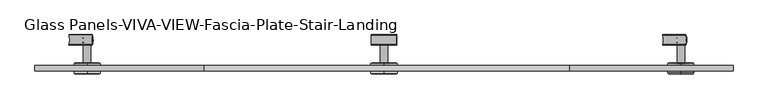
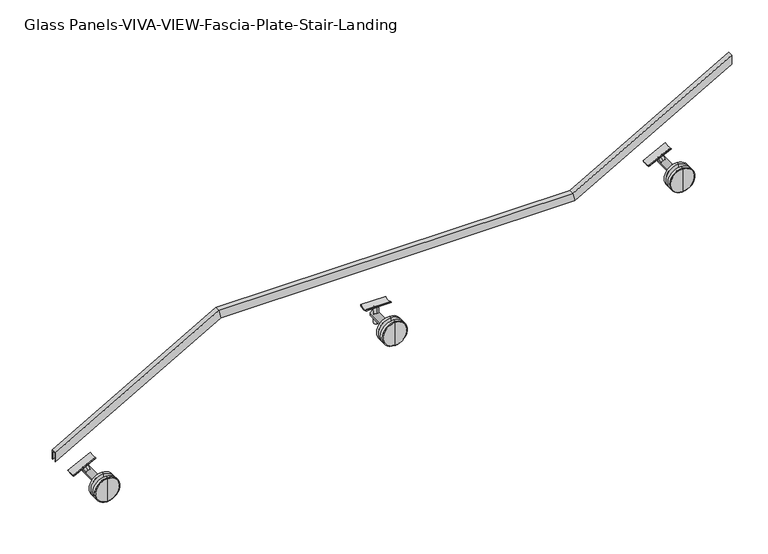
"""IFC4 building model written with IfcOpenShell, lengths in millimetres: railing geometry, Glass Panels-VIVA-VIEW-Fascia-Plate-Stair-Landing."""

import ifcopenshell
import ifcopenshell.guid

model = None  # the IFC model being written
_history = None  # IfcOwnerHistory: only IFC2X3 demands one
_inside = {}  # id of a spatial element -> (the spatial element, [elements in it])
_under = {}  # id of a project, library or spatial element -> (it, [spatial elements below it])
_declared = {}  # id of a project -> (the project, [libraries it declares])
_typed = {}  # id of a type object -> (the type object, [elements of that type])
_made_of = {}  # id of a material, layer set ... -> (it, [elements and type objects made of it])


def new_model(schema):
    """Start an empty IFC model of exactly this schema.

    Asked for "IFC4X3", IfcOpenShell would pick the latest addendum, in which some entities
    have other attributes; the version numbers below select the first issue.
    IFC2X3 requires an IfcOwnerHistory on every rooted entity: one is made here for all.
    """
    global model, _history
    if schema == "IFC4X3":
        model = ifcopenshell.file(schema_version=(4, 3, 0, 0))
    else:
        model = ifcopenshell.file(schema=schema)
    _inside.clear()
    _under.clear()
    _declared.clear()
    _typed.clear()
    _made_of.clear()
    _history = None
    if model.schema == "IFC2X3":
        org = make("IfcOrganization", Name="unknown")
        user = make(
            "IfcPersonAndOrganization",
            ThePerson=make("IfcPerson", FamilyName="unknown"),
            TheOrganization=org,
        )
        app = make(
            "IfcApplication",
            ApplicationDeveloper=org,
            Version="unknown",
            ApplicationFullName="unknown",
            ApplicationIdentifier="unknown",
        )
        _history = make(
            "IfcOwnerHistory",
            OwningUser=user,
            OwningApplication=app,
            ChangeAction="ADDED",
            CreationDate=0,
        )
    return model


def make(cls, **values):
    """One entity of the class cls with the attributes given. An attribute that is None is left unset."""
    return model.create_entity(
        cls, **{name: value for name, value in values.items() if value is not None}
    )


def rooted(cls, **values):
    """An entity with a GlobalId (a new one), such as an element, a storey or a relation."""
    return make(cls, GlobalId=ifcopenshell.guid.new(), OwnerHistory=_history, **values)


def si_unit(unit_type, name, prefix=None):
    """IfcSIUnit, for example si_unit("LENGTHUNIT", "METRE", prefix="MILLI")."""
    return make("IfcSIUnit", UnitType=unit_type, Prefix=prefix, Name=name)


def assignment(units):
    """IfcUnitAssignment: the units of a project."""
    return None if units is None else make("IfcUnitAssignment", Units=units)


def point(xyz):
    """IfcCartesianPoint."""
    return None if xyz is None else make("IfcCartesianPoint", Coordinates=xyz)


def direction(xyz):
    """IfcDirection."""
    return None if xyz is None else make("IfcDirection", DirectionRatios=xyz)


def frame(location, z_axis=None, x_axis=None):
    """IfcAxis2Placement3D, a coordinate frame: its origin and axes. An axis left out is left unset."""
    return make(
        "IfcAxis2Placement3D",
        Location=point(location),
        Axis=direction(z_axis),
        RefDirection=direction(x_axis),
    )


def frame_2d(location, x_axis=None):
    """IfcAxis2Placement2D, a coordinate frame in the plane: its origin and x axis."""
    return make(
        "IfcAxis2Placement2D", Location=point(location), RefDirection=direction(x_axis)
    )


def origin():
    """The frame at (0, 0, 0) with its axes left unset."""
    return frame((0.0, 0.0, 0.0))


def place(relative_to, where):
    """IfcLocalPlacement: puts the frame where relative to a parent placement (None: the world)."""
    return make(
        "IfcLocalPlacement", PlacementRelTo=relative_to, RelativePlacement=where
    )


def context(
    kind, dimensions, precision=None, world=None, true_north=None, identifier=None
):
    """IfcGeometricRepresentationContext, for example the 3D "Model" context."""
    return make(
        "IfcGeometricRepresentationContext",
        ContextIdentifier=identifier,
        ContextType=kind,
        CoordinateSpaceDimension=dimensions,
        Precision=precision,
        WorldCoordinateSystem=world,
        TrueNorth=true_north,
    )


def project(units=None, contexts=None):
    """IfcProject with its units and contexts."""
    return rooted(
        "IfcProject",
        Name="project",
        RepresentationContexts=contexts,
        UnitsInContext=assignment(units),
    )


def spatial(cls, under=None, at=None, **own):
    """A site, building, storey or space (cls), placed at a placement, below another one or the project."""
    s = rooted(cls, ObjectPlacement=at, **own)
    if under is not None:
        _under.setdefault(under.id(), (under, []))[1].append(s)
    return s


def polyline(points):
    """IfcPolyline through the points."""
    return make("IfcPolyline", Points=[point(p) for p in points])


def circle_curve(where, radius):
    """IfcCircle in the frame where."""
    return make("IfcCircle", Position=where, Radius=radius)


def trimmed(basis, trim1, trim2, sense, master):
    """IfcTrimmedCurve: the piece of a basis curve between two trims."""
    return make(
        "IfcTrimmedCurve",
        BasisCurve=basis,
        Trim1=trim1,
        Trim2=trim2,
        SenseAgreement=sense,
        MasterRepresentation=master,
    )


def segment(curve, same_sense, transition):
    """IfcCompositeCurveSegment."""
    return make(
        "IfcCompositeCurveSegment",
        Transition=transition,
        SameSense=same_sense,
        ParentCurve=curve,
    )


def composite_curve(segments, self_intersect=None):
    """IfcCompositeCurve: segments joined end to end."""
    return make("IfcCompositeCurve", Segments=segments, SelfIntersect=self_intersect)


def outline(outer, holes=None, kind="AREA"):
    """IfcArbitraryClosedProfileDef: a profile drawn as a closed curve; with holes, ...WithVoids."""
    if holes is None:
        return make("IfcArbitraryClosedProfileDef", ProfileType=kind, OuterCurve=outer)
    return make(
        "IfcArbitraryProfileDefWithVoids",
        ProfileType=kind,
        OuterCurve=outer,
        InnerCurves=holes,
    )


def extrude(swept, where, along, depth):
    """IfcExtrudedAreaSolid: the profile swept, set in the frame where, extruded along a direction by depth."""
    return make(
        "IfcExtrudedAreaSolid",
        SweptArea=swept,
        Position=where,
        ExtrudedDirection=direction(along),
        Depth=depth,
    )


def faces_of(points, faces, orient=None, outer=None):
    """IfcFace entities. A face is a list of loops; a loop is a list of indices into points, from 0.

    orient and outer hold one flag for each loop. By default every Orientation is true, the
    first loop of a face is its IfcFaceOuterBound and the others are IfcFaceBound.
    """
    made = []
    for i, loops in enumerate(faces):
        bounds = []
        for j, loop in enumerate(loops):
            is_outer = j == 0 if outer is None else outer[i][j]
            bounds.append(
                make(
                    "IfcFaceOuterBound" if is_outer else "IfcFaceBound",
                    Bound=make("IfcPolyLoop", Polygon=[points[k] for k in loop]),
                    Orientation=True if orient is None else orient[i][j],
                )
            )
        made.append(make("IfcFace", Bounds=bounds))
    return made


def faceted_brep(points, faces, orient=None, outer=None, voids=None):
    """IfcFacetedBrep: a solid bounded by flat faces; with voids (closed shells), ...WithVoids."""
    shared = [point(p) for p in points]
    hull = make("IfcClosedShell", CfsFaces=faces_of(shared, faces, orient, outer))
    if voids is None:
        return make("IfcFacetedBrep", Outer=hull)
    return make(
        "IfcFacetedBrepWithVoids",
        Outer=hull,
        Voids=[
            make(cls, CfsFaces=faces_of(shared, fs, o, b)) for cls, fs, o, b in voids
        ],
    )


def shape(context_of_items, identifier, shape_type, items):
    """IfcShapeRepresentation: the items that make up one representation, for example the "Body"."""
    return make(
        "IfcShapeRepresentation",
        ContextOfItems=context_of_items,
        RepresentationIdentifier=identifier,
        RepresentationType=shape_type,
        Items=items,
    )


def source(mapping_origin, context_of_items, identifier, shape_type, items):
    """IfcRepresentationMap: a shape defined once, which mapped items show again and again."""
    return make(
        "IfcRepresentationMap",
        MappingOrigin=mapping_origin,
        MappedRepresentation=shape(context_of_items, identifier, shape_type, items),
    )


def transform(
    local_origin,
    x_axis=None,
    y_axis=None,
    z_axis=None,
    scale=None,
    scale2=None,
    scale3=None,
    uniform=True,
):
    """IfcCartesianTransformationOperator3D, or its non-uniform kind. x_axis, y_axis, z_axis: its Axis1, 2, 3."""
    if uniform:
        return make(
            "IfcCartesianTransformationOperator3D",
            Axis1=direction(x_axis),
            Axis2=direction(y_axis),
            LocalOrigin=point(local_origin),
            Scale=scale,
            Axis3=direction(z_axis),
        )
    return make(
        "IfcCartesianTransformationOperator3DnonUniform",
        Axis1=direction(x_axis),
        Axis2=direction(y_axis),
        LocalOrigin=point(local_origin),
        Scale=scale,
        Axis3=direction(z_axis),
        Scale2=scale2,
        Scale3=scale3,
    )


def mapped(mapping_source, mapping_target):
    """IfcMappedItem: shows the shape of a source again, moved by a transform."""
    return make(
        "IfcMappedItem", MappingSource=mapping_source, MappingTarget=mapping_target
    )


def made_of(thing, what):
    """Note that an element or type object is made of a material, layer set ...; save() writes the relation."""
    if what is not None:
        _made_of.setdefault(what.id(), (what, []))[1].append(thing)
    return thing


def element(
    cls,
    number,
    at=None,
    inside=None,
    cuts=None,
    type_object=None,
    material=None,
    context=None,
    identifier="Body",
    shape_type=None,
    held_by="IfcProductDefinitionShape",
    body=None,
    shapes=None,
    **own,
):
    """One element of the class cls, such as IfcWall. Its Tag is "e" and its number.

    at: its placement. inside: the storey or other place that contains it. cuts: it is an
    opening in that element (IfcRelVoidsElement). A single representation is given by context,
    identifier, shape_type and body (its items); several are given by shapes. held_by: the class
    of the entity that holds the representations. save() writes the other relations.
    """
    e = rooted(cls, Tag="e%d" % number, ObjectPlacement=at, **own)
    if body is not None:
        shapes = [shape(context, identifier, shape_type, body)]
    if shapes is not None:
        e.Representation = make(held_by, Representations=shapes)
    if inside is not None:
        _inside.setdefault(inside.id(), (inside, []))[1].append(e)
    if cuts is not None:
        rooted(
            "IfcRelVoidsElement", RelatingBuildingElement=cuts, RelatedOpeningElement=e
        )
    if type_object is not None:
        _typed.setdefault(type_object.id(), (type_object, []))[1].append(e)
    return made_of(e, material)


def aggregate(whole, parts):
    """IfcRelAggregates: a whole, such as a stair, and the parts it consists of."""
    return rooted("IfcRelAggregates", RelatingObject=whole, RelatedObjects=parts)


def save(model, path):
    """Write the relations noted so far, then the file.

    IfcRelAggregates (storeys below a building ...), IfcRelContainedInSpatialStructure (elements
    in a storey), IfcRelDefinesByType, IfcRelAssociatesMaterial and IfcRelDeclares: one each for
    every whole, place, type object, material and project.
    """
    for whole, parts in _under.values():
        aggregate(whole, parts)
    for where, things in _inside.values():
        rooted(
            "IfcRelContainedInSpatialStructure",
            RelatedElements=things,
            RelatingStructure=where,
        )
    for kind, things in _typed.values():
        rooted("IfcRelDefinesByType", RelatedObjects=things, RelatingType=kind)
    for what, things in _made_of.values():
        rooted("IfcRelAssociatesMaterial", RelatedObjects=things, RelatingMaterial=what)
    for by, libraries in _declared.values():
        rooted("IfcRelDeclares", RelatingContext=by, RelatedDefinitions=libraries)
    model.write(path)


def plane_surface(at):
    """IfcPlane: the flat surface through the origin of the frame at, square to its z axis."""
    return make("IfcPlane", Position=at)


def cylinder_surface(at, radius):
    """IfcCylindricalSurface: all points at the distance radius from the z axis of the frame at."""
    return make("IfcCylindricalSurface", Position=at, Radius=radius)


def revolved_surface(curve, axis_point, axis_direction):
    """IfcSurfaceOfRevolution: the curve turned about the line through axis_point along axis_direction."""
    return make(
        "IfcSurfaceOfRevolution",
        SweptCurve=make("IfcArbitraryOpenProfileDef", ProfileType="CURVE", Curve=curve),
        AxisPosition=make("IfcAxis1Placement", Location=point(axis_point), Axis=direction(axis_direction)),
    )


def advanced_brep(points, edges, surfaces, faces):
    """IfcAdvancedBrep: a solid bounded by faces that lie on surfaces and meet in shared edges.

    An edge is (start, end): straight between two places in points (the first is 0);
    or (start, end, curve); or (start, end, curve, False) where it runs against its curve.
    A face is (place in surfaces, loops), or (place, loops, False) where it looks against
    its surface's normal. A loop lists edges by number (the first is 1), with a minus sign
    where the edge is run from its end to its start. The first loop is the outer one.
    """
    corners = [point(p) for p in points]
    vertices = [make("IfcVertexPoint", VertexGeometry=c) for c in corners]
    made = []
    for start, end, *more in edges:
        made.append(
            make(
                "IfcEdgeCurve",
                EdgeStart=vertices[start],
                EdgeEnd=vertices[end],
                EdgeGeometry=more[0] if more else make("IfcPolyline", Points=[corners[start], corners[end]]),
                SameSense=more[1] if len(more) > 1 else True,
            )
        )
    hull = []
    for where, loops, *sense in faces:
        bounds = []
        for j, loop in enumerate(loops):
            ring = [make("IfcOrientedEdge", EdgeElement=made[abs(k) - 1], Orientation=k > 0) for k in loop]
            bounds.append(
                make(
                    "IfcFaceOuterBound" if j == 0 else "IfcFaceBound",
                    Bound=make("IfcEdgeLoop", EdgeList=ring),
                    Orientation=True,
                )
            )
        hull.append(make("IfcAdvancedFace", Bounds=bounds, FaceSurface=surfaces[where], SameSense=sense[0] if sense else True))
    return make("IfcAdvancedBrep", Outer=make("IfcClosedShell", CfsFaces=hull))


def glass_panels_viva_view_fascia_plate_stair_landing_6f1cc94a(model_context):
    return source(origin(), model_context, "Body", "SolidModel", [
        faceted_brep([(34673.4016433, -11437.3344585, 2988.1285714), (34673.4016433, -11437.3344585, 2958.8740933), (34673.4016433, -11438.9219585, 2958.8740933), (34673.4016433, -11438.9219585, 2986.3001665), (34673.4016433, -11451.6219585, 2986.3001665), (34673.4016433, -11451.6219585, 2958.8740933), (34673.4016433, -11453.2094585, 2958.8740933), (34673.4016433, -11453.2094585, 2988.1285714), (35165.5266433, -11437.3344585, 3269.3428571), (35172.27198, -11437.3344585, 3243.9428571), (35172.27198, -11438.9219585, 3243.9428571), (35165.9482268, -11438.9219585, 3267.7553571), (35165.9482268, -11451.6219585, 3267.7553571), (35172.27198, -11451.6219585, 3243.9428571), (35172.27198, -11453.2094585, 3243.9428571), (35165.5266433, -11453.2094585, 3269.3428571), (36232.3266433, -11437.3344585, 3269.3428571), (36239.07198, -11437.3344585, 3243.9428571), (36239.07198, -11438.9219585, 3243.9428571), (36232.7482268, -11438.9219585, 3267.7553571), (36232.7482268, -11451.6219585, 3267.7553571), (36239.07198, -11451.6219585, 3243.9428571), (36239.07198, -11453.2094585, 3243.9428571), (36232.3266433, -11453.2094585, 3269.3428571), (36710.9578933, -11437.3344585, 3542.8464286), (36710.9578933, -11453.2094585, 3542.8464286), (36710.9578933, -11453.2094585, 3513.5919505), (36710.9578933, -11451.6219585, 3513.5919505), (36710.9578933, -11451.6219585, 3541.0180237), (36710.9578933, -11438.9219585, 3541.0180237), (36710.9578933, -11438.9219585, 3513.5919505), (36710.9578933, -11437.3344585, 3513.5919505)], [[[0, 1, 2, 3, 4, 5, 6, 7]], [[1, 0, 8, 9]], [[2, 1, 9, 10]], [[3, 2, 10, 11]], [[4, 3, 11, 12]], [[5, 4, 12, 13]], [[6, 5, 13, 14]], [[7, 6, 14, 15]], [[0, 7, 15, 8]], [[9, 8, 16, 17]], [[10, 9, 17, 18]], [[11, 10, 18, 19]], [[12, 11, 19, 20]], [[13, 12, 20, 21]], [[14, 13, 21, 22]], [[15, 14, 22, 23]], [[8, 15, 23, 16]], [[24, 25, 26, 27, 28, 29, 30, 31]], [[17, 16, 24, 31]], [[18, 17, 31, 30]], [[19, 18, 30, 29]], [[20, 19, 29, 28]], [[21, 20, 28, 27]], [[22, 21, 27, 26]], [[23, 22, 26, 25]], [[16, 23, 25, 24]]]),
        extrude(outline(composite_curve([segment(trimmed(circle_curve(frame_2d((35692.1797683, -11363.0520975)), 7.0), [point((35692.1797683, -11356.0520975))], [point((35692.1797683, -11370.0520975))], False, "CARTESIAN"), True, "CONTINUOUS"), segment(trimmed(circle_curve(frame_2d((35692.1797683, -11363.0520975)), 7.0), [point((35692.1797683, -11370.0520975))], [point((35692.1797683, -11356.0520975))], False, "CARTESIAN"), True, "CONTINUOUS")], self_intersect=False)), frame((0.0, 0.0, 2992.4664418), z_axis=(0.0, 0.0, 1.0), x_axis=(1.0, 0.0, 0.0)), (0.0, 0.0, 1.0), 52.8378352),
        extrude(outline(composite_curve([segment(trimmed(circle_curve(frame_2d((18.6575251, 0.3952033)), 19.05), [point((5.2466064, 13.9247916))], [point((5.2466064, -13.1343849))], True, "CARTESIAN"), True, "CONTINUOUS"), segment(polyline([(5.2466064, -13.1343849), (4.2292193, -14.1607745)]), True, "CONTINUOUS"), segment(trimmed(circle_curve(frame_2d((3.1638974, -13.1047967)), 1.5), [point((4.2292193, -14.1607745))], [point((2.0329757, -14.0901981))], False, "CARTESIAN"), True, "CONTINUOUS"), segment(trimmed(circle_curve(frame_2d((18.6575251, 0.3952033)), 22.05), [point((2.0329757, -14.0901981))], [point((2.0329757, 14.8806048))], False, "CARTESIAN"), True, "CONTINUOUS"), segment(trimmed(circle_curve(frame_2d((3.1638974, 13.8952033)), 1.5), [point((2.0329757, 14.8806048))], [point((4.2292193, 14.9511812))], False, "CARTESIAN"), True, "CONTINUOUS"), segment(polyline([(4.2292193, 14.9511812), (5.2466064, 13.9247916)]), True, "CONTINUOUS")], self_intersect=False)), frame((35654.9926572, -11361.3248652, 3048.6249714), z_axis=(0.9999988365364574, 0.0, 0.0015254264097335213), x_axis=(-0.0015254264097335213, 0.0, 0.9999988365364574)), (0.0, 0.0, 1.0), 74.5229187),
        extrude(outline(composite_curve([segment(trimmed(circle_curve(frame_2d((3015.3428571, 35692.1797683)), 11.0132813), [point((3015.3428571, 35703.1930495))], [point((3015.3428571, 35681.166487))], False, "CARTESIAN"), True, "CONTINUOUS"), segment(trimmed(circle_curve(frame_2d((3015.3428571, 35692.1797683)), 11.0132813), [point((3015.3428571, 35681.166487))], [point((3015.3428571, 35703.1930495))], False, "CARTESIAN"), True, "CONTINUOUS")], self_intersect=False)), frame((0.0, -11429.2977397, 0.0), z_axis=(0.0, 1.0, 0.0), x_axis=(0.0, 0.0, 1.0)), (0.0, 0.0, 1.0), 79.2757812),
        advanced_brep(
        [(35692.1797683, -11461.2461772, 3015.3428571), (35692.1797683, -11461.2461772, 3051.4584821), (35692.1797683, -11461.2461772, 2979.2272321), (35692.1797683, -11429.2977397, 2979.2272321), (35692.1797683, -11429.2977397, 3051.4584821), (35692.1797683, -11429.2977397, 3015.3428571), (35692.1797683, -11431.2821147, 2977.2428571), (35692.1797683, -11431.2821147, 3053.4428571), (35692.1797683, -11438.9219585, 2977.2428571), (35692.1797683, -11438.9219585, 3053.4428571), (35692.1797683, -11438.9219585, 3002.6428571), (35692.1797683, -11438.9219585, 3028.0428571), (35692.1797683, -11451.6219585, 3002.6428571), (35692.1797683, -11451.6219585, 3028.0428571), (35692.1797683, -11451.6219585, 2977.2428571), (35692.1797683, -11451.6219585, 3053.4428571), (35692.1797683, -11459.2618022, 2977.2428571), (35692.1797683, -11459.2618022, 3053.4428571)],
        [
            (0, 1),
            (1, 2, circle_curve(frame((35692.1797683, -11461.2461772, 3015.3428571), z_axis=(0.0, -1.0, 0.0), x_axis=(0.0, 0.0, 1.0)), 36.115625)),
            (2, 0),
            (2, 1, circle_curve(frame((35692.1797683, -11461.2461772, 3015.3428571), z_axis=(0.0, -1.0, 0.0), x_axis=(0.0, 0.0, 1.0)), 36.115625)),
            (3, 4, circle_curve(frame((35692.1797683, -11429.2977397, 3015.3428571), z_axis=(0.0, 1.0, 0.0), x_axis=(0.0, 0.0, 1.0)), 36.115625)),
            (4, 5),
            (5, 3),
            (4, 3, circle_curve(frame((35692.1797683, -11429.2977397, 3015.3428571), z_axis=(0.0, 1.0, 0.0), x_axis=(0.0, 0.0, 1.0)), 36.115625)),
            (6, 7, circle_curve(frame((35692.1797683, -11431.2821147, 3015.3428571), z_axis=(0.0, 1.0, 0.0), x_axis=(0.0, 0.0, 1.0)), 38.1)),
            (7, 4),
            (3, 6),
            (7, 6, circle_curve(frame((35692.1797683, -11431.2821147, 3015.3428571), z_axis=(0.0, 1.0, 0.0), x_axis=(0.0, 0.0, 1.0)), 38.1)),
            (8, 9, circle_curve(frame((35692.1797683, -11438.9219585, 3015.3428571), z_axis=(0.0, 1.0, 0.0), x_axis=(0.0, 0.0, 1.0)), 38.1)),
            (9, 7),
            (6, 8),
            (9, 8, circle_curve(frame((35692.1797683, -11438.9219585, 3015.3428571), z_axis=(0.0, 1.0, 0.0), x_axis=(0.0, 0.0, 1.0)), 38.1)),
            (10, 11, circle_curve(frame((35692.1797683, -11438.9219585, 3015.3428571), z_axis=(0.0, 1.0, 0.0), x_axis=(0.0, 0.0, 1.0)), 12.7)),
            (11, 9),
            (8, 10),
            (11, 10, circle_curve(frame((35692.1797683, -11438.9219585, 3015.3428571), z_axis=(0.0, 1.0, 0.0), x_axis=(0.0, 0.0, 1.0)), 12.7)),
            (12, 13, circle_curve(frame((35692.1797683, -11451.6219585, 3015.3428571), z_axis=(0.0, 1.0, 0.0), x_axis=(0.0, 0.0, 1.0)), 12.7)),
            (13, 11),
            (10, 12),
            (13, 12, circle_curve(frame((35692.1797683, -11451.6219585, 3015.3428571), z_axis=(0.0, 1.0, 0.0), x_axis=(0.0, 0.0, 1.0)), 12.7)),
            (14, 15, circle_curve(frame((35692.1797683, -11451.6219585, 3015.3428571), z_axis=(0.0, 1.0, 0.0), x_axis=(0.0, 0.0, 1.0)), 38.1)),
            (15, 13),
            (12, 14),
            (15, 14, circle_curve(frame((35692.1797683, -11451.6219585, 3015.3428571), z_axis=(0.0, 1.0, 0.0), x_axis=(0.0, 0.0, 1.0)), 38.1)),
            (16, 17, circle_curve(frame((35692.1797683, -11459.2618022, 3015.3428571), z_axis=(0.0, 1.0, 0.0), x_axis=(0.0, 0.0, 1.0)), 38.1)),
            (17, 15),
            (14, 16),
            (17, 16, circle_curve(frame((35692.1797683, -11459.2618022, 3015.3428571), z_axis=(0.0, 1.0, 0.0), x_axis=(0.0, 0.0, 1.0)), 38.1)),
            (1, 17),
            (16, 2),
        ],
        [
            plane_surface(frame((35692.1797683, -11461.2461772, 3015.3428571), z_axis=(0.0, -1.0, 0.0), x_axis=(0.0, 0.0, 1.0))),
            plane_surface(frame((35692.1797683, -11429.2977397, 3015.3428571), z_axis=(0.0, 1.0, 0.0), x_axis=(0.0, 0.0, 1.0))),
            revolved_surface(polyline([(35692.1797683, -11429.2977397, 3051.4584821), (35692.1797683, -11431.2821147, 3053.4428571)]), (35692.1797683, -11497.3618022, 3015.3428571), (0.0, -1.0, 0.0)),
            cylinder_surface(frame((35692.1797683, -11497.3618022, 3015.3428571), z_axis=(0.0, -1.0, 0.0), x_axis=(0.0, 0.0, 1.0)), 38.1),
            plane_surface(frame((35692.1797683, -11438.9219585, 3015.3428571), z_axis=(0.0, -1.0, 0.0), x_axis=(0.0, 0.0, 1.0))),
            cylinder_surface(frame((35692.1797683, -11497.3618022, 3015.3428571), z_axis=(0.0, -1.0, 0.0), x_axis=(0.0, 0.0, 1.0)), 12.7),
            plane_surface(frame((35692.1797683, -11451.6219585, 3015.3428571), z_axis=(0.0, 1.0, 0.0), x_axis=(0.0, 0.0, 1.0))),
            revolved_surface(polyline([(35692.1797683, -11459.2618022, 3053.4428571), (35692.1797683, -11461.2461772, 3051.4584821)]), (35692.1797683, -11497.3618022, 3015.3428571), (0.0, -1.0, 0.0)),
        ],
        [
            (0, [[1, 2, 3]]),
            (0, [[-3, 4, -1]]),
            (1, [[5, 6, 7]]),
            (1, [[8, -7, -6]]),
            (2, [[9, 10, -5, 11]]),
            (2, [[12, -11, -8, -10]]),
            (3, [[13, 14, -9, 15]]),
            (3, [[16, -15, -12, -14]]),
            (4, [[17, 18, -13, 19]]),
            (4, [[20, -19, -16, -18]]),
            (5, [[21, 22, -17, 23]]),
            (5, [[24, -23, -20, -22]]),
            (6, [[25, 26, -21, 27]]),
            (6, [[28, -27, -24, -26]]),
            (3, [[29, 30, -25, 31]]),
            (3, [[32, -31, -28, -30]]),
            (7, [[-2, 33, -29, 34]]),
            (7, [[-4, -34, -32, -33]]),
        ],
    ),
        extrude(outline(composite_curve([segment(trimmed(circle_curve(frame_2d((0.0, -7.0)), 7.0), [point((0.0, -14.0))], [point((0.0, 0.0))], False, "CARTESIAN"), True, "CONTINUOUS"), segment(trimmed(circle_curve(frame_2d((0.0, -7.0)), 7.0), [point((0.0, 0.0))], [point((0.0, -14.0))], False, "CARTESIAN"), True, "CONTINUOUS")], self_intersect=False)), frame((36569.978817, -11370.0520975, 3178.8842989), z_axis=(-0.4481147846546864, 0.0, 0.8939760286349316), x_axis=(-0.8939760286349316, 0.0, -0.4481147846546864)), (0.0, 0.0, 1.0), 52.8378352),
        extrude(outline(composite_curve([segment(trimmed(circle_curve(frame_2d((18.6575251, 0.3952033)), 19.05), [point((5.2466063, 13.9247916))], [point((5.2466063, -13.1343849))], True, "CARTESIAN"), True, "CONTINUOUS"), segment(polyline([(5.2466063, -13.1343849), (4.2292193, -14.1607745)]), True, "CONTINUOUS"), segment(trimmed(circle_curve(frame_2d((3.1638975, -13.1047967)), 1.5), [point((4.2292193, -14.1607745))], [point((2.0329757, -14.0901981))], False, "CARTESIAN"), True, "CONTINUOUS"), segment(trimmed(circle_curve(frame_2d((18.6575251, 0.3952033)), 22.05), [point((2.0329757, -14.0901981))], [point((2.0329757, 14.8806048))], False, "CARTESIAN"), True, "CONTINUOUS"), segment(trimmed(circle_curve(frame_2d((3.1638975, 13.8952033)), 1.5), [point((2.0329757, 14.8806048))], [point((4.2292193, 14.9511812))], False, "CARTESIAN"), True, "CONTINUOUS"), segment(polyline([(4.2292193, 14.9511812), (5.2466063, 13.9247916)]), True, "CONTINUOUS")], self_intersect=False)), frame((36507.324839, -11361.3248652, 3210.5094028), z_axis=(0.8953503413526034, 0.0, 0.44536251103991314), x_axis=(-0.44536251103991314, 0.0, 0.8953503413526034)), (0.0, 0.0, 1.0), 74.5229187),
        extrude(outline(composite_curve([segment(trimmed(circle_curve(frame_2d((3201.7607143, 36558.5578933)), 11.0132813), [point((3201.7607143, 36569.5711745))], [point((3201.7607143, 36547.544612))], False, "CARTESIAN"), True, "CONTINUOUS"), segment(trimmed(circle_curve(frame_2d((3201.7607143, 36558.5578933)), 11.0132813), [point((3201.7607143, 36547.544612))], [point((3201.7607143, 36569.5711745))], False, "CARTESIAN"), True, "CONTINUOUS")], self_intersect=False)), frame((0.0, -11429.2977397, 0.0), z_axis=(0.0, 1.0, 0.0), x_axis=(0.0, 0.0, 1.0)), (0.0, 0.0, 1.0), 79.2757812),
        advanced_brep(
        [(36558.5578933, -11461.2461772, 3201.7607143), (36558.5578933, -11461.2461772, 3237.8763393), (36558.5578933, -11461.2461772, 3165.6450893), (36558.5578933, -11429.2977397, 3165.6450893), (36558.5578933, -11429.2977397, 3237.8763393), (36558.5578933, -11429.2977397, 3201.7607143), (36558.5578933, -11431.2821147, 3163.6607143), (36558.5578933, -11431.2821147, 3239.8607143), (36558.5578933, -11438.9219585, 3163.6607143), (36558.5578933, -11438.9219585, 3239.8607143), (36558.5578933, -11438.9219585, 3189.0607143), (36558.5578933, -11438.9219585, 3214.4607143), (36558.5578933, -11451.6219585, 3189.0607143), (36558.5578933, -11451.6219585, 3214.4607143), (36558.5578933, -11451.6219585, 3163.6607143), (36558.5578933, -11451.6219585, 3239.8607143), (36558.5578933, -11459.2618022, 3163.6607143), (36558.5578933, -11459.2618022, 3239.8607143)],
        [
            (0, 1),
            (1, 2, circle_curve(frame((36558.5578933, -11461.2461772, 3201.7607143), z_axis=(0.0, -1.0, 0.0), x_axis=(0.0, 0.0, 1.0)), 36.115625)),
            (2, 0),
            (2, 1, circle_curve(frame((36558.5578933, -11461.2461772, 3201.7607143), z_axis=(0.0, -1.0, 0.0), x_axis=(0.0, 0.0, 1.0)), 36.115625)),
            (3, 4, circle_curve(frame((36558.5578933, -11429.2977397, 3201.7607143), z_axis=(0.0, 1.0, 0.0), x_axis=(0.0, 0.0, 1.0)), 36.115625)),
            (4, 5),
            (5, 3),
            (4, 3, circle_curve(frame((36558.5578933, -11429.2977397, 3201.7607143), z_axis=(0.0, 1.0, 0.0), x_axis=(0.0, 0.0, 1.0)), 36.115625)),
            (6, 7, circle_curve(frame((36558.5578933, -11431.2821147, 3201.7607143), z_axis=(0.0, 1.0, 0.0), x_axis=(0.0, 0.0, 1.0)), 38.1)),
            (7, 4),
            (3, 6),
            (7, 6, circle_curve(frame((36558.5578933, -11431.2821147, 3201.7607143), z_axis=(0.0, 1.0, 0.0), x_axis=(0.0, 0.0, 1.0)), 38.1)),
            (8, 9, circle_curve(frame((36558.5578933, -11438.9219585, 3201.7607143), z_axis=(0.0, 1.0, 0.0), x_axis=(0.0, 0.0, 1.0)), 38.1)),
            (9, 7),
            (6, 8),
            (9, 8, circle_curve(frame((36558.5578933, -11438.9219585, 3201.7607143), z_axis=(0.0, 1.0, 0.0), x_axis=(0.0, 0.0, 1.0)), 38.1)),
            (10, 11, circle_curve(frame((36558.5578933, -11438.9219585, 3201.7607143), z_axis=(0.0, 1.0, 0.0), x_axis=(0.0, 0.0, 1.0)), 12.7)),
            (11, 9),
            (8, 10),
            (11, 10, circle_curve(frame((36558.5578933, -11438.9219585, 3201.7607143), z_axis=(0.0, 1.0, 0.0), x_axis=(0.0, 0.0, 1.0)), 12.7)),
            (12, 13, circle_curve(frame((36558.5578933, -11451.6219585, 3201.7607143), z_axis=(0.0, 1.0, 0.0), x_axis=(0.0, 0.0, 1.0)), 12.7)),
            (13, 11),
            (10, 12),
            (13, 12, circle_curve(frame((36558.5578933, -11451.6219585, 3201.7607143), z_axis=(0.0, 1.0, 0.0), x_axis=(0.0, 0.0, 1.0)), 12.7)),
            (14, 15, circle_curve(frame((36558.5578933, -11451.6219585, 3201.7607143), z_axis=(0.0, 1.0, 0.0), x_axis=(0.0, 0.0, 1.0)), 38.1)),
            (15, 13),
            (12, 14),
            (15, 14, circle_curve(frame((36558.5578933, -11451.6219585, 3201.7607143), z_axis=(0.0, 1.0, 0.0), x_axis=(0.0, 0.0, 1.0)), 38.1)),
            (16, 17, circle_curve(frame((36558.5578933, -11459.2618022, 3201.7607143), z_axis=(0.0, 1.0, 0.0), x_axis=(0.0, 0.0, 1.0)), 38.1)),
            (17, 15),
            (14, 16),
            (17, 16, circle_curve(frame((36558.5578933, -11459.2618022, 3201.7607143), z_axis=(0.0, 1.0, 0.0), x_axis=(0.0, 0.0, 1.0)), 38.1)),
            (1, 17),
            (16, 2),
        ],
        [
            plane_surface(frame((36558.5578933, -11461.2461772, 3201.7607143), z_axis=(0.0, -1.0, 0.0), x_axis=(0.0, 0.0, 1.0))),
            plane_surface(frame((36558.5578933, -11429.2977397, 3201.7607143), z_axis=(0.0, 1.0, 0.0), x_axis=(0.0, 0.0, 1.0))),
            revolved_surface(polyline([(36558.5578933, -11429.2977397, 3237.8763393), (36558.5578933, -11431.2821147, 3239.8607143)]), (36558.5578933, -11497.3618022, 3201.7607143), (0.0, -1.0, 0.0)),
            cylinder_surface(frame((36558.5578933, -11497.3618022, 3201.7607143), z_axis=(0.0, -1.0, 0.0), x_axis=(0.0, 0.0, 1.0)), 38.1),
            plane_surface(frame((36558.5578933, -11438.9219585, 3201.7607143), z_axis=(0.0, -1.0, 0.0), x_axis=(0.0, 0.0, 1.0))),
            cylinder_surface(frame((36558.5578933, -11497.3618022, 3201.7607143), z_axis=(0.0, -1.0, 0.0), x_axis=(0.0, 0.0, 1.0)), 12.7),
            plane_surface(frame((36558.5578933, -11451.6219585, 3201.7607143), z_axis=(0.0, 1.0, 0.0), x_axis=(0.0, 0.0, 1.0))),
            revolved_surface(polyline([(36558.5578933, -11459.2618022, 3239.8607143), (36558.5578933, -11461.2461772, 3237.8763393)]), (36558.5578933, -11497.3618022, 3201.7607143), (0.0, -1.0, 0.0)),
        ],
        [
            (0, [[1, 2, 3]]),
            (0, [[-3, 4, -1]]),
            (1, [[5, 6, 7]]),
            (1, [[8, -7, -6]]),
            (2, [[9, 10, -5, 11]]),
            (2, [[12, -11, -8, -10]]),
            (3, [[13, 14, -9, 15]]),
            (3, [[16, -15, -12, -14]]),
            (4, [[17, 18, -13, 19]]),
            (4, [[20, -19, -16, -18]]),
            (5, [[21, 22, -17, 23]]),
            (5, [[24, -23, -20, -22]]),
            (6, [[25, 26, -21, 27]]),
            (6, [[28, -27, -24, -26]]),
            (3, [[29, 30, -25, 31]]),
            (3, [[32, -31, -28, -30]]),
            (7, [[-2, 33, -29, 34]]),
            (7, [[-4, -34, -32, -33]]),
        ],
    ),
        extrude(outline(composite_curve([segment(trimmed(circle_curve(frame_2d((0.0, -7.0)), 7.0), [point((0.0, -14.0))], [point((0.0, 0.0))], False, "CARTESIAN"), True, "CONTINUOUS"), segment(trimmed(circle_curve(frame_2d((0.0, -7.0)), 7.0), [point((0.0, 0.0))], [point((0.0, -14.0))], False, "CARTESIAN"), True, "CONTINUOUS")], self_intersect=False)), frame((34837.222567, -11370.0520975, 2798.3378704), z_axis=(-0.4481147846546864, 0.0, 0.8939760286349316), x_axis=(-0.8939760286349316, 0.0, -0.4481147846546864)), (0.0, 0.0, 1.0), 52.8378352),
        extrude(outline(composite_curve([segment(trimmed(circle_curve(frame_2d((18.6575251, 0.3952033)), 19.05), [point((5.2466063, 13.9247916))], [point((5.2466063, -13.1343849))], True, "CARTESIAN"), True, "CONTINUOUS"), segment(polyline([(5.2466063, -13.1343849), (4.2292192, -14.1607745)]), True, "CONTINUOUS"), segment(trimmed(circle_curve(frame_2d((3.1638974, -13.1047967)), 1.5), [point((4.2292192, -14.1607745))], [point((2.0329756, -14.0901981))], False, "CARTESIAN"), True, "CONTINUOUS"), segment(trimmed(circle_curve(frame_2d((18.6575251, 0.3952033)), 22.05), [point((2.0329756, -14.0901981))], [point((2.0329756, 14.8806048))], False, "CARTESIAN"), True, "CONTINUOUS"), segment(trimmed(circle_curve(frame_2d((3.1638974, 13.8952033)), 1.5), [point((2.0329756, 14.8806048))], [point((4.2292192, 14.9511812))], False, "CARTESIAN"), True, "CONTINUOUS"), segment(polyline([(4.2292192, 14.9511812), (5.2466063, 13.9247916)]), True, "CONTINUOUS")], self_intersect=False)), frame((34774.568589, -11361.3248652, 2829.9629743), z_axis=(0.8953503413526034, 0.0, 0.44536251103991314), x_axis=(-0.44536251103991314, 0.0, 0.8953503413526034)), (0.0, 0.0, 1.0), 74.5229187),
        extrude(outline(composite_curve([segment(trimmed(circle_curve(frame_2d((2821.2142857, 34825.8016433)), 11.0132813), [point((2821.2142857, 34836.8149245))], [point((2821.2142857, 34814.788362))], False, "CARTESIAN"), True, "CONTINUOUS"), segment(trimmed(circle_curve(frame_2d((2821.2142857, 34825.8016433)), 11.0132813), [point((2821.2142857, 34814.788362))], [point((2821.2142857, 34836.8149245))], False, "CARTESIAN"), True, "CONTINUOUS")], self_intersect=False)), frame((0.0, -11429.2977397, 0.0), z_axis=(0.0, 1.0, 0.0), x_axis=(0.0, 0.0, 1.0)), (0.0, 0.0, 1.0), 79.2757812),
        advanced_brep(
        [(34825.8016433, -11461.2461772, 2821.2142857), (34825.8016433, -11461.2461772, 2857.3299107), (34825.8016433, -11461.2461772, 2785.0986607), (34825.8016433, -11429.2977397, 2785.0986607), (34825.8016433, -11429.2977397, 2857.3299107), (34825.8016433, -11429.2977397, 2821.2142857), (34825.8016433, -11431.2821147, 2783.1142857), (34825.8016433, -11431.2821147, 2859.3142857), (34825.8016433, -11438.9219585, 2783.1142857), (34825.8016433, -11438.9219585, 2859.3142857), (34825.8016433, -11438.9219585, 2808.5142857), (34825.8016433, -11438.9219585, 2833.9142857), (34825.8016433, -11451.6219585, 2808.5142857), (34825.8016433, -11451.6219585, 2833.9142857), (34825.8016433, -11451.6219585, 2783.1142857), (34825.8016433, -11451.6219585, 2859.3142857), (34825.8016433, -11459.2618022, 2783.1142857), (34825.8016433, -11459.2618022, 2859.3142857)],
        [
            (0, 1),
            (1, 2, circle_curve(frame((34825.8016433, -11461.2461772, 2821.2142857), z_axis=(0.0, -1.0, 0.0), x_axis=(0.0, 0.0, 1.0)), 36.115625)),
            (2, 0),
            (2, 1, circle_curve(frame((34825.8016433, -11461.2461772, 2821.2142857), z_axis=(0.0, -1.0, 0.0), x_axis=(0.0, 0.0, 1.0)), 36.115625)),
            (3, 4, circle_curve(frame((34825.8016433, -11429.2977397, 2821.2142857), z_axis=(0.0, 1.0, 0.0), x_axis=(0.0, 0.0, 1.0)), 36.115625)),
            (4, 5),
            (5, 3),
            (4, 3, circle_curve(frame((34825.8016433, -11429.2977397, 2821.2142857), z_axis=(0.0, 1.0, 0.0), x_axis=(0.0, 0.0, 1.0)), 36.115625)),
            (6, 7, circle_curve(frame((34825.8016433, -11431.2821147, 2821.2142857), z_axis=(0.0, 1.0, 0.0), x_axis=(0.0, 0.0, 1.0)), 38.1)),
            (7, 4),
            (3, 6),
            (7, 6, circle_curve(frame((34825.8016433, -11431.2821147, 2821.2142857), z_axis=(0.0, 1.0, 0.0), x_axis=(0.0, 0.0, 1.0)), 38.1)),
            (8, 9, circle_curve(frame((34825.8016433, -11438.9219585, 2821.2142857), z_axis=(0.0, 1.0, 0.0), x_axis=(0.0, 0.0, 1.0)), 38.1)),
            (9, 7),
            (6, 8),
            (9, 8, circle_curve(frame((34825.8016433, -11438.9219585, 2821.2142857), z_axis=(0.0, 1.0, 0.0), x_axis=(0.0, 0.0, 1.0)), 38.1)),
            (10, 11, circle_curve(frame((34825.8016433, -11438.9219585, 2821.2142857), z_axis=(0.0, 1.0, 0.0), x_axis=(0.0, 0.0, 1.0)), 12.7)),
            (11, 9),
            (8, 10),
            (11, 10, circle_curve(frame((34825.8016433, -11438.9219585, 2821.2142857), z_axis=(0.0, 1.0, 0.0), x_axis=(0.0, 0.0, 1.0)), 12.7)),
            (12, 13, circle_curve(frame((34825.8016433, -11451.6219585, 2821.2142857), z_axis=(0.0, 1.0, 0.0), x_axis=(0.0, 0.0, 1.0)), 12.7)),
            (13, 11),
            (10, 12),
            (13, 12, circle_curve(frame((34825.8016433, -11451.6219585, 2821.2142857), z_axis=(0.0, 1.0, 0.0), x_axis=(0.0, 0.0, 1.0)), 12.7)),
            (14, 15, circle_curve(frame((34825.8016433, -11451.6219585, 2821.2142857), z_axis=(0.0, 1.0, 0.0), x_axis=(0.0, 0.0, 1.0)), 38.1)),
            (15, 13),
            (12, 14),
            (15, 14, circle_curve(frame((34825.8016433, -11451.6219585, 2821.2142857), z_axis=(0.0, 1.0, 0.0), x_axis=(0.0, 0.0, 1.0)), 38.1)),
            (16, 17, circle_curve(frame((34825.8016433, -11459.2618022, 2821.2142857), z_axis=(0.0, 1.0, 0.0), x_axis=(0.0, 0.0, 1.0)), 38.1)),
            (17, 15),
            (14, 16),
            (17, 16, circle_curve(frame((34825.8016433, -11459.2618022, 2821.2142857), z_axis=(0.0, 1.0, 0.0), x_axis=(0.0, 0.0, 1.0)), 38.1)),
            (1, 17),
            (16, 2),
        ],
        [
            plane_surface(frame((34825.8016433, -11461.2461772, 2821.2142857), z_axis=(0.0, -1.0, 0.0), x_axis=(0.0, 0.0, 1.0))),
            plane_surface(frame((34825.8016433, -11429.2977397, 2821.2142857), z_axis=(0.0, 1.0, 0.0), x_axis=(0.0, 0.0, 1.0))),
            revolved_surface(polyline([(34825.8016433, -11429.2977397, 2857.3299107), (34825.8016433, -11431.2821147, 2859.3142857)]), (34825.8016433, -11497.3618022, 2821.2142857), (0.0, -1.0, 0.0)),
            cylinder_surface(frame((34825.8016433, -11497.3618022, 2821.2142857), z_axis=(0.0, -1.0, 0.0), x_axis=(0.0, 0.0, 1.0)), 38.1),
            plane_surface(frame((34825.8016433, -11438.9219585, 2821.2142857), z_axis=(0.0, -1.0, 0.0), x_axis=(0.0, 0.0, 1.0))),
            cylinder_surface(frame((34825.8016433, -11497.3618022, 2821.2142857), z_axis=(0.0, -1.0, 0.0), x_axis=(0.0, 0.0, 1.0)), 12.7),
            plane_surface(frame((34825.8016433, -11451.6219585, 2821.2142857), z_axis=(0.0, 1.0, 0.0), x_axis=(0.0, 0.0, 1.0))),
            revolved_surface(polyline([(34825.8016433, -11459.2618022, 2859.3142857), (34825.8016433, -11461.2461772, 2857.3299107)]), (34825.8016433, -11497.3618022, 2821.2142857), (0.0, -1.0, 0.0)),
        ],
        [
            (0, [[1, 2, 3]]),
            (0, [[-3, 4, -1]]),
            (1, [[5, 6, 7]]),
            (1, [[8, -7, -6]]),
            (2, [[9, 10, -5, 11]]),
            (2, [[12, -11, -8, -10]]),
            (3, [[13, 14, -9, 15]]),
            (3, [[16, -15, -12, -14]]),
            (4, [[17, 18, -13, 19]]),
            (4, [[20, -19, -16, -18]]),
            (5, [[21, 22, -17, 23]]),
            (5, [[24, -23, -20, -22]]),
            (6, [[25, 26, -21, 27]]),
            (6, [[28, -27, -24, -26]]),
            (3, [[29, 30, -25, 31]]),
            (3, [[32, -31, -28, -30]]),
            (7, [[-2, 33, -29, 34]]),
            (7, [[-4, -34, -32, -33]]),
        ],
    ),
    ])


if __name__ == "__main__":
    model = new_model("IFC4")
    model_context = context("Model", 3, world=origin())
    ifc_project = project(units=[si_unit("LENGTHUNIT", "METRE", prefix="MILLI")], contexts=[model_context])
    site = spatial("IfcSite", under=ifc_project)
    building = spatial("IfcBuilding", under=site)
    placement = place(None, origin())
    glass_panels_viva_view_fascia_plate_stair_landing_shape = glass_panels_viva_view_fascia_plate_stair_landing_6f1cc94a(model_context)
    element("IfcRailing", 1, ObjectType="Glass Panels-VIVA-VIEW-Fascia-Plate-Stair-Landing", at=placement, inside=building, context=model_context, shape_type="MappedRepresentation", body=[
        mapped(glass_panels_viva_view_fascia_plate_stair_landing_shape, transform((0.0, 0.0, 0.0), x_axis=(1.0, 0.0, 0.0), y_axis=(0.0, 1.0, 0.0), z_axis=(0.0, 0.0, 1.0))),
    ])
    save(model, "model.ifc")
